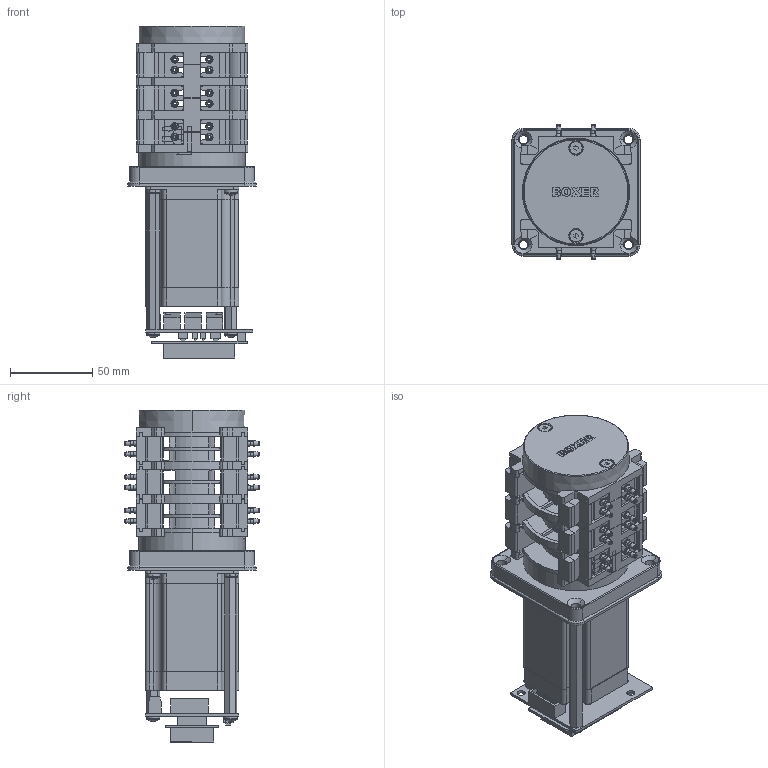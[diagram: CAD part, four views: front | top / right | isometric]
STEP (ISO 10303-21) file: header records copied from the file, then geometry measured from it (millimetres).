
FILE_DESCRIPTION (( 'STEP AP203' ), '1' );
FILE_NAME ('6343.105-1mm.STEP', '2018-10-22T17:06:40', ( '' ), ( '' ), 'SwSTEP 2.0', 'SolidWorks 2015', '' );
FILE_SCHEMA (( 'CONFIG_CONTROL_DESIGN' ));
Products named in the file (1): 6343.105-1mm
Bounding box: 78 x 81.95 x 202.15 mm (x, y, z)
Surface area: 117771.4 mm2 (no closed solid volume)
Topology: 0 solids, 126 shells, 1540 faces, 5560 edges, 4018 vertices
Faces by surface type: plane 799, cylinder 492, cone 176, torus 42, bspline 19, sphere 12
Entity records: 60613 total; most frequent: CARTESIAN_POINT 12605, DIRECTION 10446, ORIENTED_EDGE 8655, EDGE_CURVE 5560, VERTEX_POINT 4018, LINE 3520, VECTOR 3520, AXIS2_PLACEMENT_3D 3463
